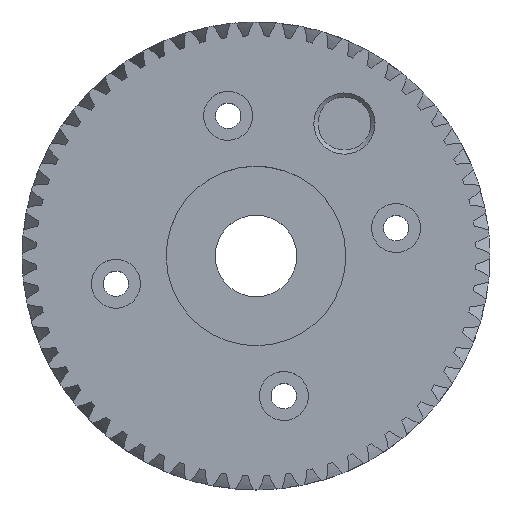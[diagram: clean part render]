
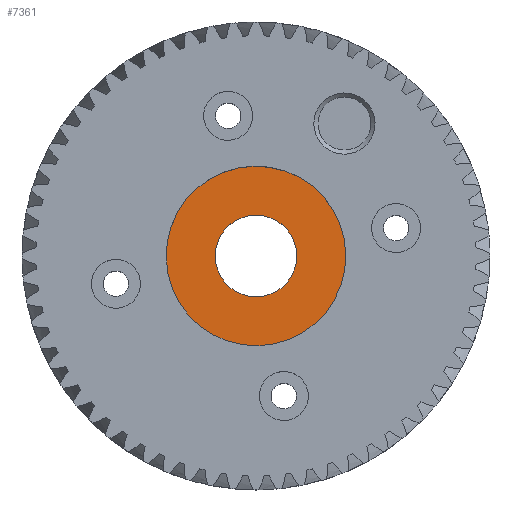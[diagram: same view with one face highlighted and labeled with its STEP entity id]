
A CAD part, top view. The second image highlights one B-rep face of the part: STEP entity #7361.
In plain terms, the highlighted planar face has unit normal (0, 0, 1).
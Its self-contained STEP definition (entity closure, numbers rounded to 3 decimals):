
#409=FACE_BOUND('',#2083,.T.);
#1509=PLANE('',#7953);
#1604=FACE_OUTER_BOUND('',#2082,.T.);
#2082=EDGE_LOOP('',(#5157,#5158));
#2083=EDGE_LOOP('',(#5159,#5160));
#2661=CIRCLE('',#7947,5.);
#2662=CIRCLE('',#7948,5.);
#2664=CIRCLE('',#7951,11.);
#2665=CIRCLE('',#7952,11.);
#3021=VERTEX_POINT('',#9787);
#3022=VERTEX_POINT('',#9788);
#3024=VERTEX_POINT('',#9795);
#3025=VERTEX_POINT('',#9797);
#3839=EDGE_CURVE('',#3021,#3022,#2661,.T.);
#3840=EDGE_CURVE('',#3022,#3021,#2662,.T.);
#3844=EDGE_CURVE('',#3024,#3025,#2664,.T.);
#3845=EDGE_CURVE('',#3025,#3024,#2665,.T.);
#5157=ORIENTED_EDGE('',*,*,#3845,.F.);
#5158=ORIENTED_EDGE('',*,*,#3844,.F.);
#5159=ORIENTED_EDGE('',*,*,#3839,.T.);
#5160=ORIENTED_EDGE('',*,*,#3840,.T.);
#7361=ADVANCED_FACE('',(#1604,#409),#1509,.T.);
#7947=AXIS2_PLACEMENT_3D('',#9789,#8327,#8328);
#7948=AXIS2_PLACEMENT_3D('',#9790,#8329,#8330);
#7951=AXIS2_PLACEMENT_3D('',#9798,#8337,#8338);
#7952=AXIS2_PLACEMENT_3D('',#9799,#8339,#8340);
#7953=AXIS2_PLACEMENT_3D('',#9800,#8341,#8342);
#8327=DIRECTION('center_axis',(0.,0.,-1.));
#8328=DIRECTION('ref_axis',(1.,0.,0.));
#8329=DIRECTION('center_axis',(0.,0.,-1.));
#8330=DIRECTION('ref_axis',(1.,0.,0.));
#8337=DIRECTION('center_axis',(0.,0.,-1.));
#8338=DIRECTION('ref_axis',(0.981,0.195,0.));
#8339=DIRECTION('center_axis',(0.,0.,-1.));
#8340=DIRECTION('ref_axis',(0.981,0.195,0.));
#8341=DIRECTION('center_axis',(0.,0.,1.));
#8342=DIRECTION('ref_axis',(1.,0.,0.));
#9787=CARTESIAN_POINT('',(5.,0.,4.5));
#9788=CARTESIAN_POINT('',(-5.,0.,4.5));
#9789=CARTESIAN_POINT('Origin',(0.,0.,4.5));
#9790=CARTESIAN_POINT('Origin',(0.,0.,4.5));
#9795=CARTESIAN_POINT('',(-10.789,-2.146,4.5));
#9797=CARTESIAN_POINT('',(10.789,2.146,4.5));
#9798=CARTESIAN_POINT('Origin',(0.,0.,4.5));
#9799=CARTESIAN_POINT('Origin',(0.,0.,4.5));
#9800=CARTESIAN_POINT('Origin',(0.,0.,
4.5));
